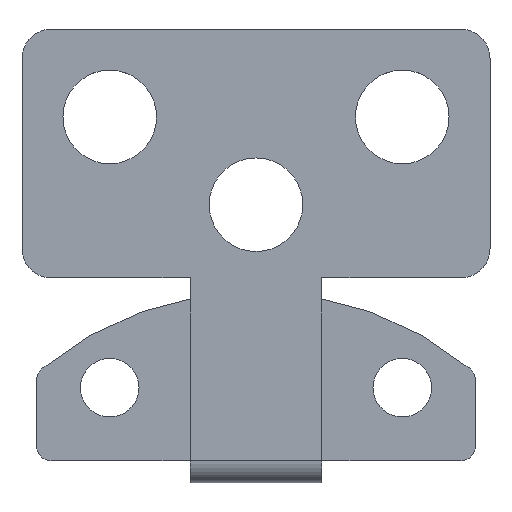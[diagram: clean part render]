
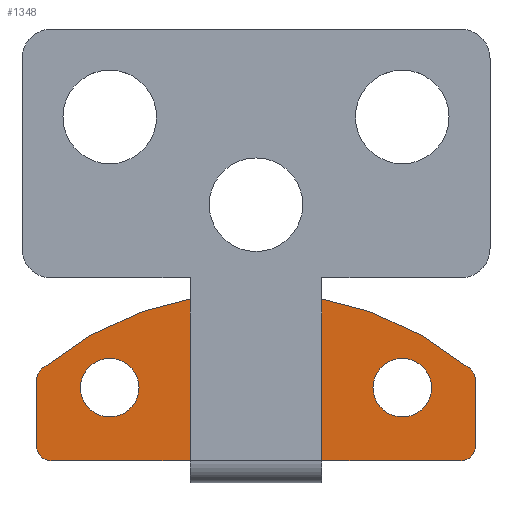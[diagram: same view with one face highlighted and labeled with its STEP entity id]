
A CAD part, top view. The second image highlights one B-rep face of the part: STEP entity #1348.
In plain terms, the highlighted planar face has unit normal (0, 0, 1).
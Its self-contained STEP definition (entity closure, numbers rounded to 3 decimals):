
#32 = VERTEX_POINT ( 'NONE', #785 ) ;
#35 = CIRCLE ( 'NONE', #866, 0.5 ) ;
#38 = VECTOR ( 'NONE', #826, 1000. ) ;
#40 = EDGE_CURVE ( 'NONE', #813, #757, #873, .T. ) ;
#45 = CARTESIAN_POINT ( 'NONE',  ( 4., -3.75, -4.05 ) ) ;
#49 = EDGE_LOOP ( 'NONE', ( #1239, #478, #848, #201, #1116, #1058, #1426, #1100, #644, #172, #1143 ) ) ;
#60 = FACE_BOUND ( 'NONE', #416, .T. ) ;
#62 = CARTESIAN_POINT ( 'NONE',  ( 13., -3.75, -4.05 ) ) ;
#66 = FACE_OUTER_BOUND ( 'NONE', #49, .T. ) ;
#69 = VERTEX_POINT ( 'NONE', #232 ) ;
#78 = VECTOR ( 'NONE', #440, 1000. ) ;
#107 = VECTOR ( 'NONE', #1062, 1000. ) ;
#109 = VECTOR ( 'NONE', #182, 1000. ) ;
#113 = CARTESIAN_POINT ( 'NONE',  ( 8., -0.468, -4.05 ) ) ;
#127 = CARTESIAN_POINT ( 'NONE',  ( 15.5, -6.25, -4.05 ) ) ;
#133 = CARTESIAN_POINT ( 'NONE',  ( 15.5, -6.25, -4.05 ) ) ;
#135 = CARTESIAN_POINT ( 'NONE',  ( 10.25, -6.25, -4.05 ) ) ;
#139 = DIRECTION ( 'NONE',  ( 0., -1., 0. ) ) ;
#160 = CARTESIAN_POINT ( 'NONE',  ( 8., -11.968, -4.05 ) ) ;
#172 = ORIENTED_EDGE ( 'NONE', *, *, #1055, .F. ) ;
#174 = CIRCLE ( 'NONE', #651, 11.5 ) ;
#175 = CARTESIAN_POINT ( 'NONE',  ( 15., -5.75, -4.05 ) ) ;
#176 = DIRECTION ( 'NONE',  ( 0., -1., 0. ) ) ;
#178 = CARTESIAN_POINT ( 'NONE',  ( 0.682, -3.097, -4.05 ) ) ;
#182 = DIRECTION ( 'NONE',  ( 0., 1., 0. ) ) ;
#199 = VERTEX_POINT ( 'NONE', #113 ) ;
#201 = ORIENTED_EDGE ( 'NONE', *, *, #405, .F. ) ;
#206 = FACE_BOUND ( 'NONE', #1162, .T. ) ;
#232 = CARTESIAN_POINT ( 'NONE',  ( 10.25, -6.25, -4.05 ) ) ;
#249 = LINE ( 'NONE', #133, #107 ) ;
#263 = AXIS2_PLACEMENT_3D ( 'NONE', #62, #977, #512 ) ;
#269 = AXIS2_PLACEMENT_3D ( 'NONE', #1306, #1006, #896 ) ;
#294 = VERTEX_POINT ( 'NONE', #1152 ) ;
#349 = CARTESIAN_POINT ( 'NONE',  ( 8., -11.968, -4.05 ) ) ;
#357 = EDGE_CURVE ( 'NONE', #32, #877, #1209, .T. ) ;
#360 = CIRCLE ( 'NONE', #819, 0.5 ) ;
#405 = EDGE_CURVE ( 'NONE', #446, #199, #1284, .T. ) ;
#416 = EDGE_LOOP ( 'NONE', ( #1078, #1022 ) ) ;
#432 = DIRECTION ( 'NONE',  ( 0., 0., 1. ) ) ;
#440 = DIRECTION ( 'NONE',  ( -1., 0., 0. ) ) ;
#444 = DIRECTION ( 'NONE',  ( 0., 0., 1. ) ) ;
#446 = VERTEX_POINT ( 'NONE', #178 ) ;
#463 = DIRECTION ( 'NONE',  ( 1., 0., 0. ) ) ;
#478 = ORIENTED_EDGE ( 'NONE', *, *, #1161, .T. ) ;
#488 = DIRECTION ( 'NONE',  ( 0., 0., 1. ) ) ;
#512 = DIRECTION ( 'NONE',  ( 1., 0., 0. ) ) ;
#527 = DIRECTION ( 'NONE',  ( 0., 0., 1. ) ) ;
#538 = CARTESIAN_POINT ( 'NONE',  ( 3., -3.75, -4.05 ) ) ;
#541 = VERTEX_POINT ( 'NONE', #1196 ) ;
#559 = CARTESIAN_POINT ( 'NONE',  ( 14., -3.75, -4.05 ) ) ;
#574 = AXIS2_PLACEMENT_3D ( 'NONE', #934, #488, #139 ) ;
#581 = VERTEX_POINT ( 'NONE', #1347 ) ;
#607 = DIRECTION ( 'NONE',  ( 0., 0., -1. ) ) ;
#613 = LINE ( 'NONE', #135, #38 ) ;
#618 = EDGE_CURVE ( 'NONE', #851, #1067, #805, .T. ) ;
#644 = ORIENTED_EDGE ( 'NONE', *, *, #862, .F. ) ;
#645 = DIRECTION ( 'NONE',  ( 1., 0., 0. ) ) ;
#649 = AXIS2_PLACEMENT_3D ( 'NONE', #160, #607, #747 ) ;
#651 = AXIS2_PLACEMENT_3D ( 'NONE', #349, #1156, #1037 ) ;
#694 = DIRECTION ( 'NONE',  ( 0., 0., 1. ) ) ;
#721 = CIRCLE ( 'NONE', #269, 0.5 ) ;
#725 = VERTEX_POINT ( 'NONE', #1225 ) ;
#734 = DIRECTION ( 'NONE',  ( 0., 0., 1. ) ) ;
#747 = DIRECTION ( 'NONE',  ( 0., -1., 0. ) ) ;
#757 = VERTEX_POINT ( 'NONE', #1001 ) ;
#775 = CARTESIAN_POINT ( 'NONE',  ( 3., -3.75, -4.05 ) ) ;
#785 = CARTESIAN_POINT ( 'NONE',  ( 0.5, -5.75, -4.05 ) ) ;
#805 = CIRCLE ( 'NONE', #852, 1. ) ;
#813 = VERTEX_POINT ( 'NONE', #45 ) ;
#819 = AXIS2_PLACEMENT_3D ( 'NONE', #1443, #432, #1270 ) ;
#826 = DIRECTION ( 'NONE',  ( -1., 0., 0. ) ) ;
#846 = DIRECTION ( 'NONE',  ( 0., -1., 0. ) ) ;
#848 = ORIENTED_EDGE ( 'NONE', *, *, #1271, .F. ) ;
#851 = VERTEX_POINT ( 'NONE', #1382 ) ;
#852 = AXIS2_PLACEMENT_3D ( 'NONE', #1458, #444, #905 ) ;
#854 = LINE ( 'NONE', #1192, #868 ) ;
#862 = EDGE_CURVE ( 'NONE', #69, #1281, #613, .T. ) ;
#866 = AXIS2_PLACEMENT_3D ( 'NONE', #175, #1074, #1081 ) ;
#868 = VECTOR ( 'NONE', #176, 1000. ) ;
#873 = CIRCLE ( 'NONE', #1246, 1. ) ;
#877 = VERTEX_POINT ( 'NONE', #959 ) ;
#896 = DIRECTION ( 'NONE',  ( 0., -1., 0. ) ) ;
#905 = DIRECTION ( 'NONE',  ( 1., 0., 0. ) ) ;
#928 = EDGE_CURVE ( 'NONE', #32, #541, #1185, .T. ) ;
#934 = CARTESIAN_POINT ( 'NONE',  ( 1., -5.75, -4.05 ) ) ;
#945 = ORIENTED_EDGE ( 'NONE', *, *, #980, .F. ) ;
#959 = CARTESIAN_POINT ( 'NONE',  ( 1., -6.25, -4.05 ) ) ;
#975 = PLANE ( 'NONE',  #1099 ) ;
#977 = DIRECTION ( 'NONE',  ( 0., 0., 1. ) ) ;
#980 = EDGE_CURVE ( 'NONE', #757, #813, #1311, .T. ) ;
#985 = EDGE_CURVE ( 'NONE', #581, #725, #854, .T. ) ;
#998 = EDGE_CURVE ( 'NONE', #1067, #851, #1238, .T. ) ;
#1001 = CARTESIAN_POINT ( 'NONE',  ( 2., -3.75, -4.05 ) ) ;
#1006 = DIRECTION ( 'NONE',  ( 0., 0., 1. ) ) ;
#1022 = ORIENTED_EDGE ( 'NONE', *, *, #618, .F. ) ;
#1037 = DIRECTION ( 'NONE',  ( 0., -1., 0. ) ) ;
#1055 = EDGE_CURVE ( 'NONE', #1430, #69, #1454, .T. ) ;
#1057 = AXIS2_PLACEMENT_3D ( 'NONE', #538, #527, #645 ) ;
#1058 = ORIENTED_EDGE ( 'NONE', *, *, #928, .F. ) ;
#1062 = DIRECTION ( 'NONE',  ( -1., 0., 0. ) ) ;
#1067 = VERTEX_POINT ( 'NONE', #559 ) ;
#1074 = DIRECTION ( 'NONE',  ( 0., 0., 1. ) ) ;
#1078 = ORIENTED_EDGE ( 'NONE', *, *, #998, .F. ) ;
#1081 = DIRECTION ( 'NONE',  ( 0., -1., 0. ) ) ;
#1088 = CARTESIAN_POINT ( 'NONE',  ( 0.5, -6.25, -4.05 ) ) ;
#1099 = AXIS2_PLACEMENT_3D ( 'NONE', #1441, #734, #846 ) ;
#1100 = ORIENTED_EDGE ( 'NONE', *, *, #1200, .F. ) ;
#1116 = ORIENTED_EDGE ( 'NONE', *, *, #1327, .T. ) ;
#1134 = CARTESIAN_POINT ( 'NONE',  ( 15., -6.25, -4.05 ) ) ;
#1143 = ORIENTED_EDGE ( 'NONE', *, *, #1316, .T. ) ;
#1152 = CARTESIAN_POINT ( 'NONE',  ( 15.318, -3.097, -4.05 ) ) ;
#1156 = DIRECTION ( 'NONE',  ( 0., 0., -1. ) ) ;
#1161 = EDGE_CURVE ( 'NONE', #581, #294, #360, .T. ) ;
#1162 = EDGE_LOOP ( 'NONE', ( #1341, #945 ) ) ;
#1185 = LINE ( 'NONE', #1088, #109 ) ;
#1192 = CARTESIAN_POINT ( 'NONE',  ( 15.5, -6.25, -4.05 ) ) ;
#1196 = CARTESIAN_POINT ( 'NONE',  ( 0.5, -3.483, -4.05 ) ) ;
#1200 = EDGE_CURVE ( 'NONE', #1281, #877, #249, .T. ) ;
#1209 = CIRCLE ( 'NONE', #574, 0.5 ) ;
#1225 = CARTESIAN_POINT ( 'NONE',  ( 15.5, -5.75, -4.05 ) ) ;
#1238 = CIRCLE ( 'NONE', #263, 1. ) ;
#1239 = ORIENTED_EDGE ( 'NONE', *, *, #985, .F. ) ;
#1246 = AXIS2_PLACEMENT_3D ( 'NONE', #775, #694, #463 ) ;
#1270 = DIRECTION ( 'NONE',  ( 0., -1., 0. ) ) ;
#1271 = EDGE_CURVE ( 'NONE', #199, #294, #174, .T. ) ;
#1281 = VERTEX_POINT ( 'NONE', #1372 ) ;
#1284 = CIRCLE ( 'NONE', #649, 11.5 ) ;
#1306 = CARTESIAN_POINT ( 'NONE',  ( 1., -3.483, -4.05 ) ) ;
#1311 = CIRCLE ( 'NONE', #1057, 1. ) ;
#1316 = EDGE_CURVE ( 'NONE', #1430, #725, #35, .T. ) ;
#1327 = EDGE_CURVE ( 'NONE', #446, #541, #721, .T. ) ;
#1341 = ORIENTED_EDGE ( 'NONE', *, *, #40, .F. ) ;
#1347 = CARTESIAN_POINT ( 'NONE',  ( 15.5, -3.483, -4.05 ) ) ;
#1348 = ADVANCED_FACE ( 'NONE', ( #206, #60, #66 ), #975, .T. ) ;
#1372 = CARTESIAN_POINT ( 'NONE',  ( 5.75, -6.25, -4.05 ) ) ;
#1382 = CARTESIAN_POINT ( 'NONE',  ( 12., -3.75, -4.05 ) ) ;
#1426 = ORIENTED_EDGE ( 'NONE', *, *, #357, .T. ) ;
#1430 = VERTEX_POINT ( 'NONE', #1134 ) ;
#1441 = CARTESIAN_POINT ( 'NONE',  ( 0., 0., -4.05 ) ) ;
#1443 = CARTESIAN_POINT ( 'NONE',  ( 15., -3.483, -4.05 ) ) ;
#1454 = LINE ( 'NONE', #127, #78 ) ;
#1458 = CARTESIAN_POINT ( 'NONE',  ( 13., -3.75, -4.05 ) ) ;
